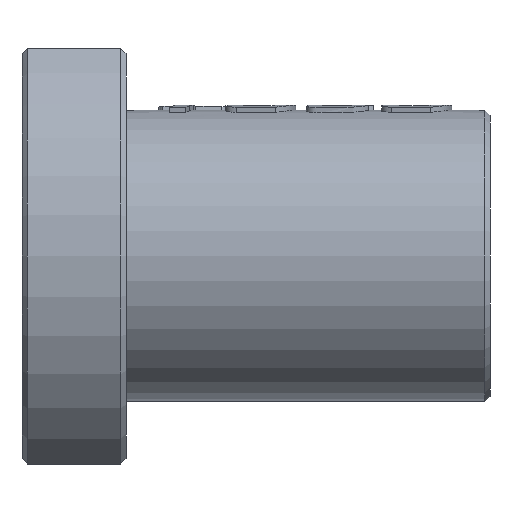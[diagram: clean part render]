
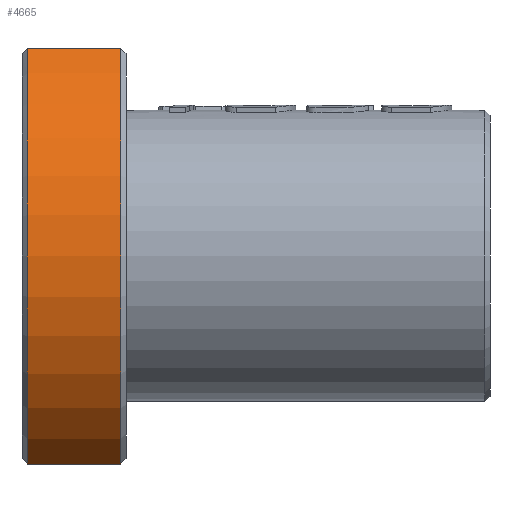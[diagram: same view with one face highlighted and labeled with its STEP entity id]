
A CAD part, front view. The second image highlights one B-rep face of the part: STEP entity #4665.
In plain terms, the highlighted cylindrical face has radius 24 mm (diameter 48 mm), a partial arc.
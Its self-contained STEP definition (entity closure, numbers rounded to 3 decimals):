
#796 = EDGE_CURVE ( 'NONE', #5458, #7272, #4793, .T. ) ;
#954 = CARTESIAN_POINT ( 'NONE',  ( 9.5, -13.266, 20. ) ) ;
#1108 = EDGE_LOOP ( 'NONE', ( #2508, #2769, #7954, #5270 ) ) ;
#1486 = CARTESIAN_POINT ( 'NONE',  ( 0.5, 0., 0. ) ) ;
#1502 = DIRECTION ( 'NONE',  ( -1., 0., 0. ) ) ;
#2508 = ORIENTED_EDGE ( 'NONE', *, *, #2781, .T. ) ;
#2653 = DIRECTION ( 'NONE',  ( 0., 0., 1. ) ) ;
#2769 = ORIENTED_EDGE ( 'NONE', *, *, #4724, .T. ) ;
#2781 = EDGE_CURVE ( 'NONE', #11181, #3336, #7173, .T. ) ;
#2797 = DIRECTION ( 'NONE',  ( 1., 0., 0. ) ) ;
#3171 = FACE_OUTER_BOUND ( 'NONE', #1108, .T. ) ;
#3336 = VERTEX_POINT ( 'NONE', #7662 ) ;
#3803 = CARTESIAN_POINT ( 'NONE',  ( 0.5, -13.266, -20. ) ) ;
#4665 = ADVANCED_FACE ( 'NONE', ( #3171 ), #8662, .T. ) ;
#4724 = EDGE_CURVE ( 'NONE', #3336, #5458, #8644, .T. ) ;
#4793 = LINE ( 'NONE', #10462, #11397 ) ;
#5037 = DIRECTION ( 'NONE',  ( 0., 0., 1. ) ) ;
#5270 = ORIENTED_EDGE ( 'NONE', *, *, #10433, .T. ) ;
#5458 = VERTEX_POINT ( 'NONE', #3803 ) ;
#5527 = CARTESIAN_POINT ( 'NONE',  ( 9.5, 0., 0. ) ) ;
#6059 = AXIS2_PLACEMENT_3D ( 'NONE', #10708, #10523, #5037 ) ;
#6565 = CARTESIAN_POINT ( 'NONE',  ( 9.5, -13.266, -20. ) ) ;
#7173 = LINE ( 'NONE', #7233, #8433 ) ;
#7233 = CARTESIAN_POINT ( 'NONE',  ( 0., -13.266, 20. ) ) ;
#7272 = VERTEX_POINT ( 'NONE', #6565 ) ;
#7662 = CARTESIAN_POINT ( 'NONE',  ( 0.5, -13.266, 20. ) ) ;
#7954 = ORIENTED_EDGE ( 'NONE', *, *, #796, .T. ) ;
#8433 = VECTOR ( 'NONE', #1502, 1000. ) ;
#8644 = CIRCLE ( 'NONE', #11416, 24. ) ;
#8662 = CYLINDRICAL_SURFACE ( 'NONE', #6059, 24. ) ;
#9086 = DIRECTION ( 'NONE',  ( 0., 0., -1. ) ) ;
#10129 = DIRECTION ( 'NONE',  ( -1., 0., 0. ) ) ;
#10433 = EDGE_CURVE ( 'NONE', #7272, #11181, #12025, .T. ) ;
#10462 = CARTESIAN_POINT ( 'NONE',  ( 0., -13.266, -20. ) ) ;
#10523 = DIRECTION ( 'NONE',  ( -1., 0., 0. ) ) ;
#10708 = CARTESIAN_POINT ( 'NONE',  ( 0., 0., 0. ) ) ;
#11181 = VERTEX_POINT ( 'NONE', #954 ) ;
#11397 = VECTOR ( 'NONE', #2797, 1000. ) ;
#11416 = AXIS2_PLACEMENT_3D ( 'NONE', #1486, #12000, #9086 ) ;
#11826 = AXIS2_PLACEMENT_3D ( 'NONE', #5527, #10129, #2653 ) ;
#12000 = DIRECTION ( 'NONE',  ( 1., 0., 0. ) ) ;
#12025 = CIRCLE ( 'NONE', #11826, 24. ) ;
